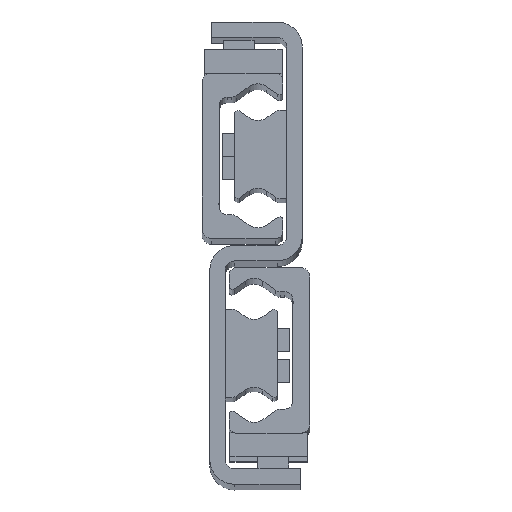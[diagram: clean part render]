
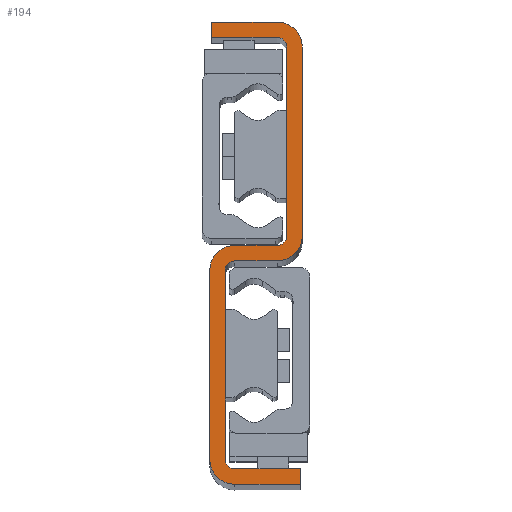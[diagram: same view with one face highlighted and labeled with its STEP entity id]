
A CAD part, top view. The second image highlights one B-rep face of the part: STEP entity #194.
In plain terms, the highlighted planar face has unit normal (0, 0, 1).
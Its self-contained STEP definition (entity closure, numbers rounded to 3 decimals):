
#194=ADVANCED_FACE('',(#617),#618,.T.);
#617=FACE_OUTER_BOUND('',#1263,.T.);
#618=PLANE('',#1264);
#1263=EDGE_LOOP('',(#2557,#2558,#2559,#2560,#2561,#2562,#2563,#2564,#2565,#2566,#2567,#2568,#2569,#2570,#2571,#2572,#2573,#2574,#2575,#2576));
#1264=AXIS2_PLACEMENT_3D('',#2577,#2578,#2579);
#2557=ORIENTED_EDGE('',*,*,#4333,.F.);
#2558=ORIENTED_EDGE('',*,*,#4391,.F.);
#2559=ORIENTED_EDGE('',*,*,#4388,.F.);
#2560=ORIENTED_EDGE('',*,*,#4385,.F.);
#2561=ORIENTED_EDGE('',*,*,#4382,.F.);
#2562=ORIENTED_EDGE('',*,*,#4379,.F.);
#2563=ORIENTED_EDGE('',*,*,#4376,.F.);
#2564=ORIENTED_EDGE('',*,*,#4373,.F.);
#2565=ORIENTED_EDGE('',*,*,#4370,.F.);
#2566=ORIENTED_EDGE('',*,*,#4367,.F.);
#2567=ORIENTED_EDGE('',*,*,#4364,.F.);
#2568=ORIENTED_EDGE('',*,*,#4361,.F.);
#2569=ORIENTED_EDGE('',*,*,#4358,.F.);
#2570=ORIENTED_EDGE('',*,*,#4355,.F.);
#2571=ORIENTED_EDGE('',*,*,#4352,.F.);
#2572=ORIENTED_EDGE('',*,*,#4349,.F.);
#2573=ORIENTED_EDGE('',*,*,#4346,.F.);
#2574=ORIENTED_EDGE('',*,*,#4343,.F.);
#2575=ORIENTED_EDGE('',*,*,#4340,.F.);
#2576=ORIENTED_EDGE('',*,*,#4337,.F.);
#2577=CARTESIAN_POINT('',(-14.,26.,1283.0));
#2578=DIRECTION('',(0.0,0.0,1.0));
#2579=DIRECTION('',(1.0,0.0,0.0));
#4333=EDGE_CURVE('',#5271,#5272,#5273,.T.);
#4337=EDGE_CURVE('',#5272,#5279,#5280,.T.);
#4340=EDGE_CURVE('',#5279,#5284,#5285,.T.);
#4343=EDGE_CURVE('',#5284,#5289,#5290,.T.);
#4346=EDGE_CURVE('',#5289,#5294,#5295,.T.);
#4349=EDGE_CURVE('',#5294,#5299,#5300,.T.);
#4352=EDGE_CURVE('',#5299,#5304,#5305,.T.);
#4355=EDGE_CURVE('',#5304,#5309,#5310,.T.);
#4358=EDGE_CURVE('',#5309,#5314,#5315,.T.);
#4361=EDGE_CURVE('',#5314,#5319,#5320,.T.);
#4364=EDGE_CURVE('',#5319,#5324,#5325,.T.);
#4367=EDGE_CURVE('',#5324,#5329,#5330,.T.);
#4370=EDGE_CURVE('',#5329,#5334,#5335,.T.);
#4373=EDGE_CURVE('',#5334,#5339,#5340,.T.);
#4376=EDGE_CURVE('',#5339,#5344,#5345,.T.);
#4379=EDGE_CURVE('',#5344,#5349,#5350,.T.);
#4382=EDGE_CURVE('',#5349,#5354,#5355,.T.);
#4385=EDGE_CURVE('',#5354,#5359,#5360,.T.);
#4388=EDGE_CURVE('',#5359,#5364,#5365,.T.);
#4391=EDGE_CURVE('',#5364,#5271,#5369,.T.);
#5271=VERTEX_POINT('',#6737);
#5272=VERTEX_POINT('',#6738);
#5273=LINE('',#6739,#6740);
#5279=VERTEX_POINT('',#6749);
#5280=CIRCLE('',#6750,2.5);
#5284=VERTEX_POINT('',#6755);
#5285=LINE('',#6756,#6757);
#5289=VERTEX_POINT('',#6763);
#5290=CIRCLE('',#6764,2.5);
#5294=VERTEX_POINT('',#6769);
#5295=LINE('',#6770,#6771);
#5299=VERTEX_POINT('',#6777);
#5300=LINE('',#6778,#6779);
#5304=VERTEX_POINT('',#6785);
#5305=LINE('',#6786,#6787);
#5309=VERTEX_POINT('',#6793);
#5310=CIRCLE('',#6794,6.5);
#5314=VERTEX_POINT('',#6799);
#5315=LINE('',#6800,#6801);
#5319=VERTEX_POINT('',#6807);
#5320=CIRCLE('',#6808,6.5);
#5324=VERTEX_POINT('',#6813);
#5325=LINE('',#6814,#6815);
#5329=VERTEX_POINT('',#6821);
#5330=CIRCLE('',#6822,2.5);
#5334=VERTEX_POINT('',#6827);
#5335=LINE('',#6828,#6829);
#5339=VERTEX_POINT('',#6835);
#5340=CIRCLE('',#6836,2.5);
#5344=VERTEX_POINT('',#6841);
#5345=LINE('',#6842,#6843);
#5349=VERTEX_POINT('',#6849);
#5350=LINE('',#6850,#6851);
#5354=VERTEX_POINT('',#6857);
#5355=LINE('',#6858,#6859);
#5359=VERTEX_POINT('',#6865);
#5360=CIRCLE('',#6866,6.5);
#5364=VERTEX_POINT('',#6871);
#5365=LINE('',#6872,#6873);
#5369=CIRCLE('',#6879,6.5);
#6737=CARTESIAN_POINT('',(-8.5,24.,1283.0));
#6738=CARTESIAN_POINT('',(-19.5,24.,1283.0));
#6739=CARTESIAN_POINT('',(-8.5,24.,1283.0));
#6740=VECTOR('',#8289,1.0);
#6749=CARTESIAN_POINT('',(-22.,21.5,1283.0));
#6750=AXIS2_PLACEMENT_3D('',#8293,#8294,#8295);
#6755=CARTESIAN_POINT('',(-22.,-27.5,1283.0));
#6756=CARTESIAN_POINT('',(-22.,-27.5,1283.0));
#6757=VECTOR('',#8300,1.0);
#6763=CARTESIAN_POINT('',(-19.5,-30.,1283.0));
#6764=AXIS2_PLACEMENT_3D('',#8303,#8304,#8305);
#6769=CARTESIAN_POINT('',(-2.5,-30.,1283.0));
#6770=CARTESIAN_POINT('',(-19.5,-30.,1283.0));
#6771=VECTOR('',#8310,1.0);
#6777=CARTESIAN_POINT('',(-2.5,-34.,1283.0));
#6778=CARTESIAN_POINT('',(-2.5,-34.,1283.0));
#6779=VECTOR('',#8313,1.0);
#6785=CARTESIAN_POINT('',(-19.5,-34.,1283.0));
#6786=CARTESIAN_POINT('',(-19.5,-34.,1283.0));
#6787=VECTOR('',#8316,1.0);
#6793=CARTESIAN_POINT('',(-26.,-27.5,1283.0));
#6794=AXIS2_PLACEMENT_3D('',#8319,#8320,#8321);
#6799=CARTESIAN_POINT('',(-26.,21.5,1283.0));
#6800=CARTESIAN_POINT('',(-26.,21.5,1283.0));
#6801=VECTOR('',#8326,1.0);
#6807=CARTESIAN_POINT('',(-19.5,28.,1283.0));
#6808=AXIS2_PLACEMENT_3D('',#8329,#8330,#8331);
#6813=CARTESIAN_POINT('',(-8.5,28.,1283.0));
#6814=CARTESIAN_POINT('',(-8.5,28.,1283.0));
#6815=VECTOR('',#8336,1.0);
#6821=CARTESIAN_POINT('',(-6.,30.5,1283.0));
#6822=AXIS2_PLACEMENT_3D('',#8339,#8340,#8341);
#6827=CARTESIAN_POINT('',(-6.,79.5,1283.0));
#6828=CARTESIAN_POINT('',(-6.,79.5,1283.0));
#6829=VECTOR('',#8346,1.0);
#6835=CARTESIAN_POINT('',(-8.5,82.,1283.0));
#6836=AXIS2_PLACEMENT_3D('',#8349,#8350,#8351);
#6841=CARTESIAN_POINT('',(-25.5,82.,1283.0));
#6842=CARTESIAN_POINT('',(-25.5,82.,1283.0));
#6843=VECTOR('',#8356,1.0);
#6849=CARTESIAN_POINT('',(-25.5,86.,1283.0));
#6850=CARTESIAN_POINT('',(-25.5,86.,1283.0));
#6851=VECTOR('',#8359,1.0);
#6857=CARTESIAN_POINT('',(-8.5,86.,1283.0));
#6858=CARTESIAN_POINT('',(-25.5,86.,1283.0));
#6859=VECTOR('',#8362,1.0);
#6865=CARTESIAN_POINT('',(-2.,79.5,1283.0));
#6866=AXIS2_PLACEMENT_3D('',#8365,#8366,#8367);
#6871=CARTESIAN_POINT('',(-2.,30.5,1283.0));
#6872=CARTESIAN_POINT('',(-2.,79.5,1283.0));
#6873=VECTOR('',#8372,1.0);
#6879=AXIS2_PLACEMENT_3D('',#8375,#8376,#8377);
#8289=DIRECTION('',(-1.0,0.,0.0));
#8293=CARTESIAN_POINT('',(-19.5,21.5,1283.0));
#8294=DIRECTION('',(0.0,0.0,1.0));
#8295=DIRECTION('',(1.0,0.0,0.0));
#8300=DIRECTION('',(-0.0,-1.0,-0.0));
#8303=CARTESIAN_POINT('',(-19.5,-27.5,1283.0));
#8304=DIRECTION('',(0.0,0.0,1.0));
#8305=DIRECTION('',(1.0,0.0,0.0));
#8310=DIRECTION('',(1.,0.,0.0));
#8313=DIRECTION('',(-0.0,-1.0,-0.0));
#8316=DIRECTION('',(-1.,0.,-0.0));
#8319=CARTESIAN_POINT('',(-19.5,-27.5,1283.0));
#8320=DIRECTION('',(0.0,0.0,-1.0));
#8321=DIRECTION('',(1.0,0.0,0.0));
#8326=DIRECTION('',(0.0,1.0,0.0));
#8329=CARTESIAN_POINT('',(-19.5,21.5,1283.0));
#8330=DIRECTION('',(0.0,0.0,-1.0));
#8331=DIRECTION('',(1.0,0.0,0.0));
#8336=DIRECTION('',(1.0,0.,0.0));
#8339=CARTESIAN_POINT('',(-8.5,30.5,1283.0));
#8340=DIRECTION('',(0.0,0.0,1.0));
#8341=DIRECTION('',(1.0,0.0,0.0));
#8346=DIRECTION('',(0.0,1.0,0.0));
#8349=CARTESIAN_POINT('',(-8.5,79.5,1283.0));
#8350=DIRECTION('',(0.0,0.0,1.0));
#8351=DIRECTION('',(1.0,0.0,0.0));
#8356=DIRECTION('',(-1.,0.,0.0));
#8359=DIRECTION('',(0.0,1.0,0.0));
#8362=DIRECTION('',(1.,0.,0.0));
#8365=CARTESIAN_POINT('',(-8.5,79.5,1283.0));
#8366=DIRECTION('',(0.0,0.0,-1.0));
#8367=DIRECTION('',(1.0,0.0,0.0));
#8372=DIRECTION('',(0.,-1.0,0.0));
#8375=CARTESIAN_POINT('',(-8.5,30.5,1283.0));
#8376=DIRECTION('',(0.0,0.0,-1.0));
#8377=DIRECTION('',(1.0,0.0,0.0));
